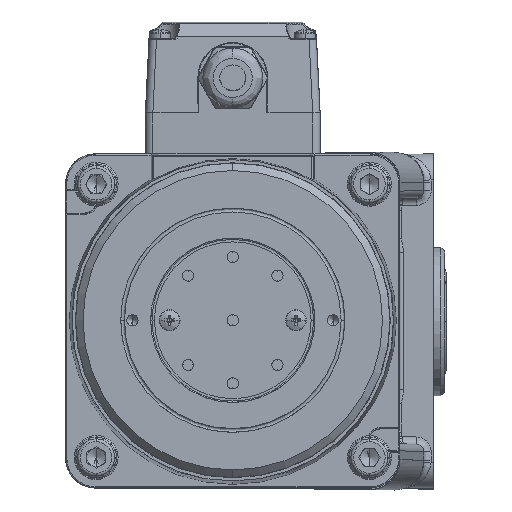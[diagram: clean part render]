
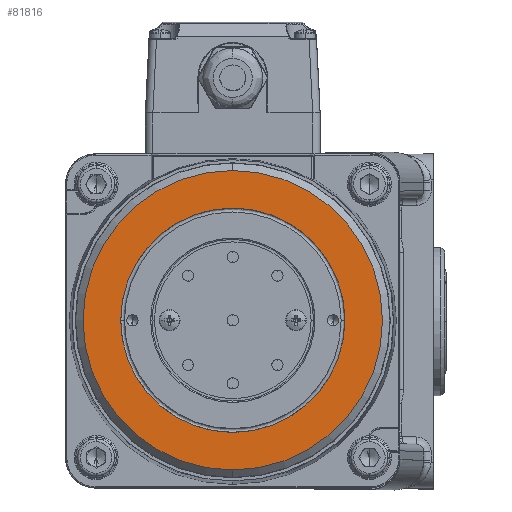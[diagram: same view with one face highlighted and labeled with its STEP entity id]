
A CAD part, top view. The second image highlights one B-rep face of the part: STEP entity #81816.
In plain terms, the highlighted planar face has unit normal (0, 0, 1) as drawn and (0, 0, -1) by its records, which use the part's own axes.
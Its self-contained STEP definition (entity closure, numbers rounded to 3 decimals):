
#2462 = CARTESIAN_POINT ( 'NONE',  ( 2.559, 4.201, 121.752 ) ) ;
#4106 = CARTESIAN_POINT ( 'NONE',  ( 2.559, 4.201, 121.752 ) ) ;
#15231 = CIRCLE ( 'NONE', #74980, 30.16 ) ;
#15650 = FACE_OUTER_BOUND ( 'NONE', #33283, .T. ) ;
#16813 = CIRCLE ( 'NONE', #63457, 40.3 ) ;
#19433 = CARTESIAN_POINT ( 'NONE',  ( -27.601, 4.201, 121.752 ) ) ;
#19495 = EDGE_CURVE ( 'NONE', #21606, #73479, #63859, .T. ) ;
#21606 = VERTEX_POINT ( 'NONE', #23203 ) ;
#22084 = ORIENTED_EDGE ( 'NONE', *, *, #27979, .F. ) ;
#23203 = CARTESIAN_POINT ( 'NONE',  ( 32.719, 4.201, 121.752 ) ) ;
#27979 = EDGE_CURVE ( 'NONE', #87726, #90979, #16813, .T. ) ;
#28223 = CARTESIAN_POINT ( 'NONE',  ( 2.559, 4.201, 121.752 ) ) ;
#33283 = EDGE_LOOP ( 'NONE', ( #22084, #80558 ) ) ;
#33784 = DIRECTION ( 'NONE',  ( 0., 0., 1. ) ) ;
#38000 = DIRECTION ( 'NONE',  ( 0., 0., 1. ) ) ;
#42520 = PLANE ( 'NONE',  #50413 ) ;
#48725 = CARTESIAN_POINT ( 'NONE',  ( 42.859, 4.201, 121.752 ) ) ;
#50413 = AXIS2_PLACEMENT_3D ( 'NONE', #113809, #33784, #69434 ) ;
#51275 = FACE_BOUND ( 'NONE', #90354, .T. ) ;
#53379 = DIRECTION ( 'NONE',  ( -1., 0., 0. ) ) ;
#56086 = DIRECTION ( 'NONE',  ( 1., 0., 0. ) ) ;
#59889 = ORIENTED_EDGE ( 'NONE', *, *, #105103, .F. ) ;
#63457 = AXIS2_PLACEMENT_3D ( 'NONE', #4106, #38000, #111002 ) ;
#63859 = CIRCLE ( 'NONE', #71313, 30.16 ) ;
#69434 = DIRECTION ( 'NONE',  ( 1., 0., 0. ) ) ;
#71313 = AXIS2_PLACEMENT_3D ( 'NONE', #28223, #106561, #53379 ) ;
#73479 = VERTEX_POINT ( 'NONE', #19433 ) ;
#73749 = DIRECTION ( 'NONE',  ( 0., 0., -1. ) ) ;
#74374 = AXIS2_PLACEMENT_3D ( 'NONE', #95582, #85672, #56086 ) ;
#74980 = AXIS2_PLACEMENT_3D ( 'NONE', #2462, #73749, #109348 ) ;
#78861 = EDGE_CURVE ( 'NONE', #90979, #87726, #83673, .T. ) ;
#80558 = ORIENTED_EDGE ( 'NONE', *, *, #78861, .F. ) ;
#81816 = ADVANCED_FACE ( 'NONE', ( #15650, #51275 ), #42520, .F. ) ;
#83673 = CIRCLE ( 'NONE', #74374, 40.3 ) ;
#85672 = DIRECTION ( 'NONE',  ( 0., 0., 1. ) ) ;
#87726 = VERTEX_POINT ( 'NONE', #48725 ) ;
#90354 = EDGE_LOOP ( 'NONE', ( #59889, #109515 ) ) ;
#90979 = VERTEX_POINT ( 'NONE', #91208 ) ;
#91208 = CARTESIAN_POINT ( 'NONE',  ( -37.741, 4.201, 121.752 ) ) ;
#95582 = CARTESIAN_POINT ( 'NONE',  ( 2.559, 4.201, 121.752 ) ) ;
#105103 = EDGE_CURVE ( 'NONE', #73479, #21606, #15231, .T. ) ;
#106561 = DIRECTION ( 'NONE',  ( 0., 0., -1. ) ) ;
#109348 = DIRECTION ( 'NONE',  ( -1., 0., 0. ) ) ;
#109515 = ORIENTED_EDGE ( 'NONE', *, *, #19495, .F. ) ;
#111002 = DIRECTION ( 'NONE',  ( 1., 0., 0. ) ) ;
#113809 = CARTESIAN_POINT ( 'NONE',  ( 2.559, 4.201, 121.752 ) ) ;
